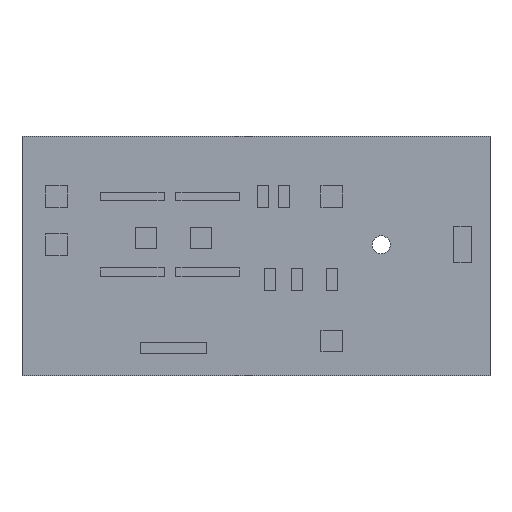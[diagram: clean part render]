
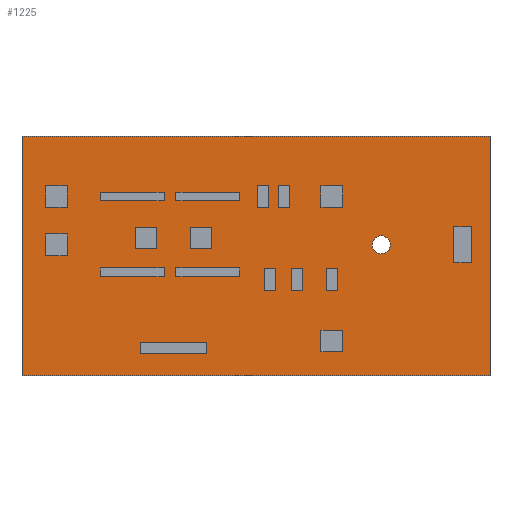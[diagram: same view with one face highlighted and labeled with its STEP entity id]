
A CAD part, top view. The second image highlights one B-rep face of the part: STEP entity #1225.
In plain terms, the highlighted planar face has unit normal (0, 0, 1).
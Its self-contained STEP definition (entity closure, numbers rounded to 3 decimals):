
#108=FACE_BOUND('',#281,.T.);
#109=FACE_BOUND('',#282,.T.);
#110=FACE_BOUND('',#283,.T.);
#111=FACE_BOUND('',#284,.T.);
#112=FACE_BOUND('',#285,.T.);
#113=FACE_BOUND('',#286,.T.);
#114=FACE_BOUND('',#287,.T.);
#115=FACE_BOUND('',#288,.T.);
#116=FACE_BOUND('',#289,.T.);
#117=FACE_BOUND('',#290,.T.);
#118=FACE_BOUND('',#291,.T.);
#119=FACE_BOUND('',#292,.T.);
#120=FACE_BOUND('',#293,.T.);
#121=FACE_BOUND('',#294,.T.);
#122=FACE_BOUND('',#295,.T.);
#123=FACE_BOUND('',#296,.T.);
#124=FACE_BOUND('',#297,.T.);
#125=FACE_BOUND('',#298,.T.);
#126=FACE_BOUND('',#299,.T.);
#127=FACE_BOUND('',#300,.T.);
#128=FACE_BOUND('',#301,.T.);
#154=PLANE('',#1418);
#217=FACE_OUTER_BOUND('',#280,.T.);
#280=EDGE_LOOP('',(#957,#958,#959,#960));
#281=EDGE_LOOP('',(#961));
#282=EDGE_LOOP('',(#962));
#283=EDGE_LOOP('',(#963));
#284=EDGE_LOOP('',(#964));
#285=EDGE_LOOP('',(#965));
#286=EDGE_LOOP('',(#966));
#287=EDGE_LOOP('',(#967));
#288=EDGE_LOOP('',(#968));
#289=EDGE_LOOP('',(#969));
#290=EDGE_LOOP('',(#970));
#291=EDGE_LOOP('',(#971));
#292=EDGE_LOOP('',(#972));
#293=EDGE_LOOP('',(#973));
#294=EDGE_LOOP('',(#974));
#295=EDGE_LOOP('',(#975));
#296=EDGE_LOOP('',(#976));
#297=EDGE_LOOP('',(#977));
#298=EDGE_LOOP('',(#978));
#299=EDGE_LOOP('',(#979));
#300=EDGE_LOOP('',(#980));
#301=EDGE_LOOP('',(#981));
#383=LINE('',#1988,#488);
#386=LINE('',#1994,#491);
#389=LINE('',#2000,#494);
#392=LINE('',#2004,#497);
#488=VECTOR('',#1638,10.);
#491=VECTOR('',#1643,10.);
#494=VECTOR('',#1648,10.);
#497=VECTOR('',#1653,10.);
#571=CIRCLE('',#1353,0.6);
#573=CIRCLE('',#1356,1.994);
#575=CIRCLE('',#1359,1.994);
#577=CIRCLE('',#1362,1.994);
#579=CIRCLE('',#1365,1.651);
#581=CIRCLE('',#1368,0.559);
#583=CIRCLE('',#1371,0.559);
#585=CIRCLE('',#1374,0.559);
#587=CIRCLE('',#1377,0.559);
#589=CIRCLE('',#1380,0.559);
#591=CIRCLE('',#1383,0.559);
#593=CIRCLE('',#1386,0.559);
#595=CIRCLE('',#1389,0.559);
#597=CIRCLE('',#1392,0.559);
#599=CIRCLE('',#1395,0.559);
#601=CIRCLE('',#1398,0.559);
#603=CIRCLE('',#1401,1.994);
#605=CIRCLE('',#1404,1.994);
#607=CIRCLE('',#1407,1.994);
#609=CIRCLE('',#1410,0.6);
#611=CIRCLE('',#1413,0.6);
#613=VERTEX_POINT('',#1858);
#615=VERTEX_POINT('',#1864);
#617=VERTEX_POINT('',#1870);
#619=VERTEX_POINT('',#1876);
#621=VERTEX_POINT('',#1882);
#623=VERTEX_POINT('',#1888);
#625=VERTEX_POINT('',#1894);
#627=VERTEX_POINT('',#1900);
#629=VERTEX_POINT('',#1906);
#631=VERTEX_POINT('',#1912);
#633=VERTEX_POINT('',#1918);
#635=VERTEX_POINT('',#1924);
#637=VERTEX_POINT('',#1930);
#639=VERTEX_POINT('',#1936);
#641=VERTEX_POINT('',#1942);
#643=VERTEX_POINT('',#1948);
#645=VERTEX_POINT('',#1954);
#647=VERTEX_POINT('',#1960);
#649=VERTEX_POINT('',#1966);
#651=VERTEX_POINT('',#1972);
#653=VERTEX_POINT('',#1978);
#656=VERTEX_POINT('',#1985);
#657=VERTEX_POINT('',#1987);
#659=VERTEX_POINT('',#1993);
#661=VERTEX_POINT('',#1999);
#712=EDGE_CURVE('',#613,#613,#571,.T.);
#715=EDGE_CURVE('',#615,#615,#573,.T.);
#718=EDGE_CURVE('',#617,#617,#575,.T.);
#721=EDGE_CURVE('',#619,#619,#577,.T.);
#724=EDGE_CURVE('',#621,#621,#579,.T.);
#727=EDGE_CURVE('',#623,#623,#581,.T.);
#730=EDGE_CURVE('',#625,#625,#583,.T.);
#733=EDGE_CURVE('',#627,#627,#585,.T.);
#736=EDGE_CURVE('',#629,#629,#587,.T.);
#739=EDGE_CURVE('',#631,#631,#589,.T.);
#742=EDGE_CURVE('',#633,#633,#591,.T.);
#745=EDGE_CURVE('',#635,#635,#593,.T.);
#748=EDGE_CURVE('',#637,#637,#595,.T.);
#751=EDGE_CURVE('',#639,#639,#597,.T.);
#754=EDGE_CURVE('',#641,#641,#599,.T.);
#757=EDGE_CURVE('',#643,#643,#601,.T.);
#760=EDGE_CURVE('',#645,#645,#603,.T.);
#763=EDGE_CURVE('',#647,#647,#605,.T.);
#766=EDGE_CURVE('',#649,#649,#607,.T.);
#769=EDGE_CURVE('',#651,#651,#609,.T.);
#772=EDGE_CURVE('',#653,#653,#611,.T.);
#775=EDGE_CURVE('',#657,#656,#383,.T.);
#778=EDGE_CURVE('',#659,#657,#386,.T.);
#781=EDGE_CURVE('',#661,#659,#389,.T.);
#784=EDGE_CURVE('',#656,#661,#392,.T.);
#957=ORIENTED_EDGE('',*,*,#784,.T.);
#958=ORIENTED_EDGE('',*,*,#781,.T.);
#959=ORIENTED_EDGE('',*,*,#778,.T.);
#960=ORIENTED_EDGE('',*,*,#775,.T.);
#961=ORIENTED_EDGE('',*,*,#712,.T.);
#962=ORIENTED_EDGE('',*,*,#715,.T.);
#963=ORIENTED_EDGE('',*,*,#718,.T.);
#964=ORIENTED_EDGE('',*,*,#721,.T.);
#965=ORIENTED_EDGE('',*,*,#724,.T.);
#966=ORIENTED_EDGE('',*,*,#727,.T.);
#967=ORIENTED_EDGE('',*,*,#730,.T.);
#968=ORIENTED_EDGE('',*,*,#733,.T.);
#969=ORIENTED_EDGE('',*,*,#736,.T.);
#970=ORIENTED_EDGE('',*,*,#739,.T.);
#971=ORIENTED_EDGE('',*,*,#742,.T.);
#972=ORIENTED_EDGE('',*,*,#745,.T.);
#973=ORIENTED_EDGE('',*,*,#748,.T.);
#974=ORIENTED_EDGE('',*,*,#751,.T.);
#975=ORIENTED_EDGE('',*,*,#754,.T.);
#976=ORIENTED_EDGE('',*,*,#757,.T.);
#977=ORIENTED_EDGE('',*,*,#760,.T.);
#978=ORIENTED_EDGE('',*,*,#763,.T.);
#979=ORIENTED_EDGE('',*,*,#766,.T.);
#980=ORIENTED_EDGE('',*,*,#769,.T.);
#981=ORIENTED_EDGE('',*,*,#772,.T.);
#1225=ADVANCED_FACE('',(#217,#108,#109,#110,#111,#112,#113,#114,#115,#116,
#117,#118,#119,#120,#121,#122,#123,#124,#125,#126,#127,#128),#154,.T.);
#1353=AXIS2_PLACEMENT_3D('',#1860,#1492,#1493);
#1356=AXIS2_PLACEMENT_3D('',#1866,#1499,#1500);
#1359=AXIS2_PLACEMENT_3D('',#1872,#1506,#1507);
#1362=AXIS2_PLACEMENT_3D('',#1878,#1513,#1514);
#1365=AXIS2_PLACEMENT_3D('',#1884,#1520,#1521);
#1368=AXIS2_PLACEMENT_3D('',#1890,#1527,#1528);
#1371=AXIS2_PLACEMENT_3D('',#1896,#1534,#1535);
#1374=AXIS2_PLACEMENT_3D('',#1902,#1541,#1542);
#1377=AXIS2_PLACEMENT_3D('',#1908,#1548,#1549);
#1380=AXIS2_PLACEMENT_3D('',#1914,#1555,#1556);
#1383=AXIS2_PLACEMENT_3D('',#1920,#1562,#1563);
#1386=AXIS2_PLACEMENT_3D('',#1926,#1569,#1570);
#1389=AXIS2_PLACEMENT_3D('',#1932,#1576,#1577);
#1392=AXIS2_PLACEMENT_3D('',#1938,#1583,#1584);
#1395=AXIS2_PLACEMENT_3D('',#1944,#1590,#1591);
#1398=AXIS2_PLACEMENT_3D('',#1950,#1597,#1598);
#1401=AXIS2_PLACEMENT_3D('',#1956,#1604,#1605);
#1404=AXIS2_PLACEMENT_3D('',#1962,#1611,#1612);
#1407=AXIS2_PLACEMENT_3D('',#1968,#1618,#1619);
#1410=AXIS2_PLACEMENT_3D('',#1974,#1625,#1626);
#1413=AXIS2_PLACEMENT_3D('',#1980,#1632,#1633);
#1418=AXIS2_PLACEMENT_3D('',#2005,#1654,#1655);
#1492=DIRECTION('center_axis',(0.,0.,-1.));
#1493=DIRECTION('ref_axis',(1.,0.,0.));
#1499=DIRECTION('center_axis',(0.,0.,-1.));
#1500=DIRECTION('ref_axis',(1.,0.,0.));
#1506=DIRECTION('center_axis',(0.,0.,-1.));
#1507=DIRECTION('ref_axis',(1.,0.,0.));
#1513=DIRECTION('center_axis',(0.,0.,-1.));
#1514=DIRECTION('ref_axis',(1.,0.,0.));
#1520=DIRECTION('center_axis',(0.,0.,-1.));
#1521=DIRECTION('ref_axis',(1.,0.,0.));
#1527=DIRECTION('center_axis',(0.,0.,-1.));
#1528=DIRECTION('ref_axis',(1.,0.,0.));
#1534=DIRECTION('center_axis',(0.,0.,-1.));
#1535=DIRECTION('ref_axis',(1.,0.,0.));
#1541=DIRECTION('center_axis',(0.,0.,-1.));
#1542=DIRECTION('ref_axis',(1.,0.,0.));
#1548=DIRECTION('center_axis',(0.,0.,-1.));
#1549=DIRECTION('ref_axis',(1.,0.,0.));
#1555=DIRECTION('center_axis',(0.,0.,-1.));
#1556=DIRECTION('ref_axis',(1.,0.,0.));
#1562=DIRECTION('center_axis',(0.,0.,-1.));
#1563=DIRECTION('ref_axis',(1.,0.,0.));
#1569=DIRECTION('center_axis',(0.,0.,-1.));
#1570=DIRECTION('ref_axis',(1.,0.,0.));
#1576=DIRECTION('center_axis',(0.,0.,-1.));
#1577=DIRECTION('ref_axis',(1.,0.,0.));
#1583=DIRECTION('center_axis',(0.,0.,-1.));
#1584=DIRECTION('ref_axis',(1.,0.,0.));
#1590=DIRECTION('center_axis',(0.,0.,-1.));
#1591=DIRECTION('ref_axis',(1.,0.,0.));
#1597=DIRECTION('center_axis',(0.,0.,-1.));
#1598=DIRECTION('ref_axis',(1.,0.,0.));
#1604=DIRECTION('center_axis',(0.,0.,-1.));
#1605=DIRECTION('ref_axis',(1.,0.,0.));
#1611=DIRECTION('center_axis',(0.,0.,-1.));
#1612=DIRECTION('ref_axis',(1.,0.,0.));
#1618=DIRECTION('center_axis',(0.,0.,-1.));
#1619=DIRECTION('ref_axis',(1.,0.,0.));
#1625=DIRECTION('center_axis',(0.,0.,-1.));
#1626=DIRECTION('ref_axis',(1.,0.,0.));
#1632=DIRECTION('center_axis',(0.,0.,-1.));
#1633=DIRECTION('ref_axis',(1.,0.,0.));
#1638=DIRECTION('',(-1.,0.,0.));
#1643=DIRECTION('',(0.,1.,0.));
#1648=DIRECTION('',(1.,0.,0.));
#1653=DIRECTION('',(0.,-1.,0.));
#1654=DIRECTION('center_axis',(0.,0.,1.));
#1655=DIRECTION('ref_axis',(1.,0.,0.));
#1858=CARTESIAN_POINT('',(27.34,5.08,1.57));
#1860=CARTESIAN_POINT('Origin',(27.94,5.08,1.57));
#1864=CARTESIAN_POINT('',(4.356,33.02,1.57));
#1866=CARTESIAN_POINT('Origin',(6.35,33.02,1.57));
#1870=CARTESIAN_POINT('',(31.026,25.4,1.57));
#1872=CARTESIAN_POINT('Origin',(33.02,25.4,1.57));
#1876=CARTESIAN_POINT('',(55.156,6.35,1.57));
#1878=CARTESIAN_POINT('Origin',(57.15,6.35,1.57));
#1882=CARTESIAN_POINT('',(64.643,24.13,1.57));
#1884=CARTESIAN_POINT('Origin',(66.294,24.13,1.57));
#1888=CARTESIAN_POINT('',(80.721,26.67,1.57));
#1890=CARTESIAN_POINT('Origin',(81.28,26.67,1.57));
#1894=CARTESIAN_POINT('',(80.721,21.59,1.57));
#1896=CARTESIAN_POINT('Origin',(81.28,21.59,1.57));
#1900=CARTESIAN_POINT('',(28.651,19.05,1.57));
#1902=CARTESIAN_POINT('Origin',(29.21,19.05,1.57));
#1906=CARTESIAN_POINT('',(14.681,19.05,1.57));
#1908=CARTESIAN_POINT('Origin',(15.24,19.05,1.57));
#1912=CARTESIAN_POINT('',(28.651,33.02,1.57));
#1914=CARTESIAN_POINT('Origin',(29.21,33.02,1.57));
#1918=CARTESIAN_POINT('',(24.841,33.02,1.57));
#1920=CARTESIAN_POINT('Origin',(25.4,33.02,1.57));
#1924=CARTESIAN_POINT('',(38.811,33.02,1.57));
#1926=CARTESIAN_POINT('Origin',(39.37,33.02,1.57));
#1930=CARTESIAN_POINT('',(24.841,19.05,1.57));
#1932=CARTESIAN_POINT('Origin',(25.4,19.05,1.57));
#1936=CARTESIAN_POINT('',(38.811,19.05,1.57));
#1938=CARTESIAN_POINT('Origin',(39.37,19.05,1.57));
#1942=CARTESIAN_POINT('',(80.721,24.13,1.57));
#1944=CARTESIAN_POINT('Origin',(81.28,24.13,1.57));
#1948=CARTESIAN_POINT('',(14.681,33.02,1.57));
#1950=CARTESIAN_POINT('Origin',(15.24,33.02,1.57));
#1954=CARTESIAN_POINT('',(4.356,24.13,1.57));
#1956=CARTESIAN_POINT('Origin',(6.35,24.13,1.57));
#1960=CARTESIAN_POINT('',(20.866,25.4,1.57));
#1962=CARTESIAN_POINT('Origin',(22.86,25.4,1.57));
#1966=CARTESIAN_POINT('',(55.156,33.02,1.57));
#1968=CARTESIAN_POINT('Origin',(57.15,33.02,1.57));
#1972=CARTESIAN_POINT('',(22.34,5.08,1.57));
#1974=CARTESIAN_POINT('Origin',(22.94,5.08,1.57));
#1978=CARTESIAN_POINT('',(32.34,5.08,1.57));
#1980=CARTESIAN_POINT('Origin',(32.94,5.08,1.57));
#1985=CARTESIAN_POINT('',(0.,44.12,1.57));
#1987=CARTESIAN_POINT('',(86.34,44.12,1.57));
#1988=CARTESIAN_POINT('',(86.34,44.12,1.57));
#1993=CARTESIAN_POINT('',(86.34,0.,1.57));
#1994=CARTESIAN_POINT('',(86.34,0.,1.57));
#1999=CARTESIAN_POINT('',(0.,0.,1.57));
#2000=CARTESIAN_POINT('',(0.,0.,1.57));
#2004=CARTESIAN_POINT('',(0.,44.12,1.57));
#2005=CARTESIAN_POINT('Origin',(43.17,22.06,1.57));
